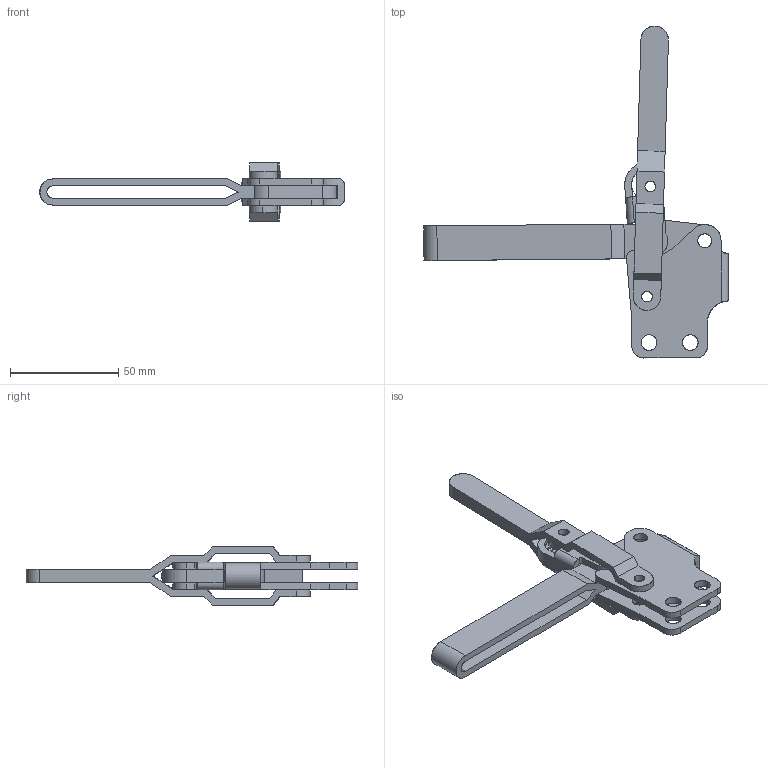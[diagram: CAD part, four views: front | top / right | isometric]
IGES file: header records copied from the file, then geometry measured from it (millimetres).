
Start section: SolidWorks IGES file using analytic representation for surfaces
Global section: file name: D:\GH Files\GH-SW-FILES\GH1\GH-12135,12137\12137\GH-12137.igs; native system: SolidWorks 2006 by SolidWorks Corporation; preprocessor: SolidWorks 2006 by SolidWorks Corporation; author: Administrator; date: 060824.145306; units: millimetre
Bounding box: 140.52 x 153.11 x 26.8 mm (x, y, z)
Surface area: 29897.6 mm2 (no closed solid volume)
Topology: 0 solids, 0 shells, 169 faces, 2837 edges, 2837 vertices
Faces by surface type: revolution 88, bspline 81
